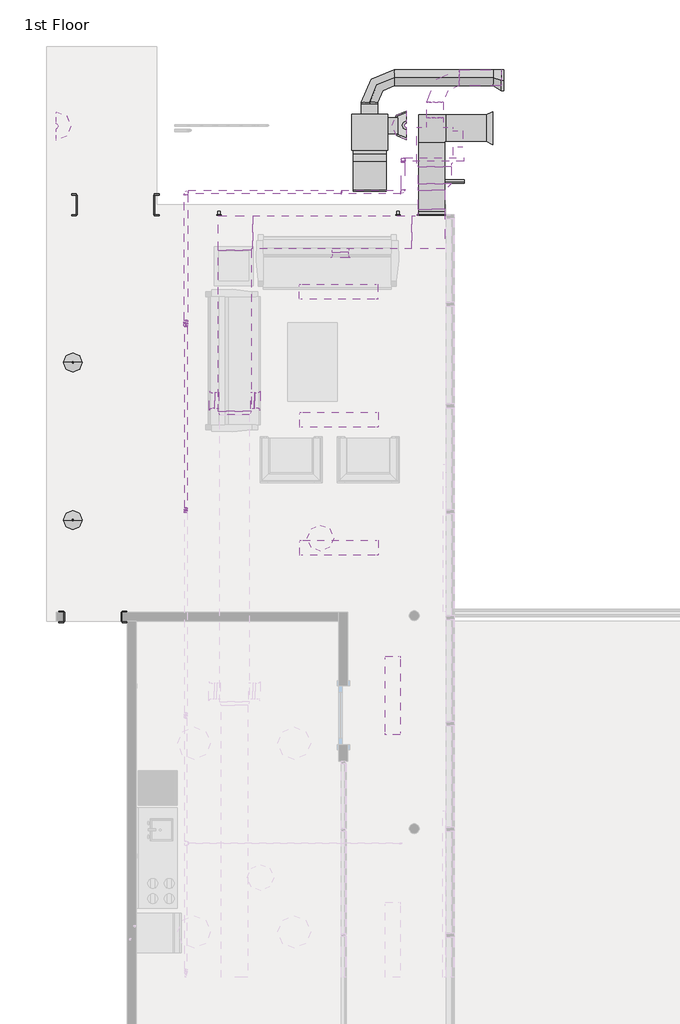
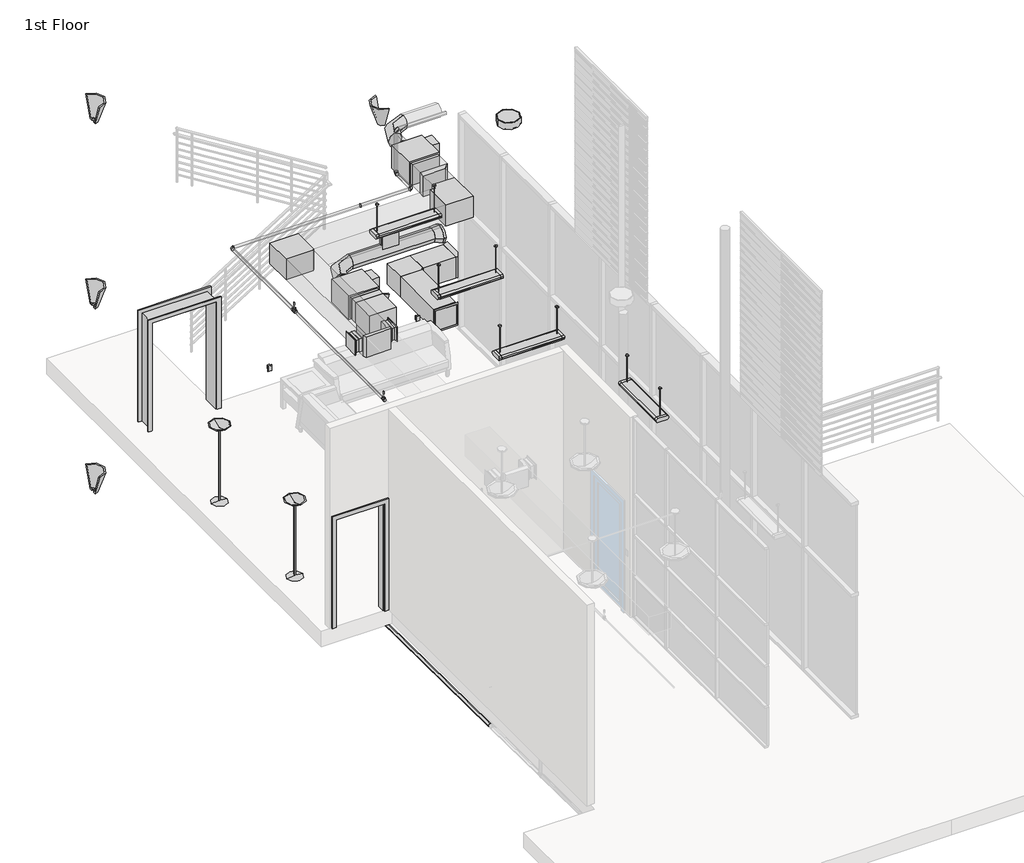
# One storey, part 4 of 4: 15 duct segments, 14 duct fittings, 13 light fixtures, 13 pipe segments, 12 pipe fittings, 8 proxies, 4 air terminals, 2 fire suppression terminals.
"""IFC4 building model written with IfcOpenShell, lengths in millimetres."""

from ifc_helpers import new_model, si_unit, point, frame, frame_2d, origin, place, context, project, spatial, polyline, circle_curve, trimmed, segment, composite_curve, outline, extrude, transform, mapped, element, save
from components import air_terminal_37217d21, air_terminal_0139ce82, air_terminal_831a3b9e, proxy_e62dbe84, proxy_20ebd3de, pipe_dcw_origin_standard_a8ebccfd, receptacle_gfci_367a9a66, shut_off_vav_10_inch_df6e8142, rectangular_duct_mitered_elbow_standard_69e3689b, rectangular_duct_mitered_elbow_standard_b095041a, rectangular_duct_mitered_elbow_standard_baa8b5a4, rectangular_duct_mitered_transition_elbow_standard_b977c078, rectangular_duct_takeoff_sidewall_standard_8ecd27dc, rectangular_duct_takeoff_sidewall_standard_de4d9739, rectangular_duct_transition_standard_9aa5c4ff, rectangular_duct_transition_standard_94b557fa, rectangular_duct_transition_standard_95a42e19, round_duct_elbow_1_5_d_a606aaa3, round_duct_takeoff_beveled_standard_77c3d9e6, fire_suppression_terminal_f250fbbb, light_fixture_120v_8a54b260, light_fixture_b06bbfae, sconce_light_flat_round_100w_120v_d640190c, sconce_light_uplight_100w_120v_70b3641e, pipe_elbow_standard_46078d03, pipe_elbow_standard_764eecca, pipe_pvc_bend_standard_92995d58, pipe_pvc_bend_standard_b8b756f3, pipe_tee_standard_7127fd44, pipe_tee_standard_36278b8a, pipe_transition_eccentric_standard_8ef0957a, pipe_transition_eccentric_standard_4aeee749, pipe_transition_eccentric_standard_3b8d3413

model = new_model("IFC4")

# Units and contexts
model_context = context("Model", 3, world=origin())
ifc_project = project(units=[si_unit("LENGTHUNIT", "METRE", prefix="MILLI")], contexts=[model_context])

# Site, building, storey
site = spatial("IfcSite", under=ifc_project)
building = spatial("IfcBuilding", under=site)
storey = spatial("IfcBuildingStorey", under=building, Name="1st Floor", Elevation=3657.6)

# Air terminals
placement = place(None, origin())
air_terminal_shape = air_terminal_37217d21(model_context)
element("IfcAirTerminal", 1, ObjectType="Sidewall Diffuser : 10\" x 10\"", at=placement, inside=storey, context=model_context, shape_type="MappedRepresentation", body=[
    mapped(air_terminal_shape, transform((-1319.3689178, 6274.7147242, 6400.8), x_axis=(0.0, 1.0, 0.0), y_axis=(-1.0, 0.0, 0.0), z_axis=(0.0, 0.0, 1.0))),
])
element("IfcAirTerminal", 2, ObjectType="Sidewall Diffuser : 10\" x 10\"", at=placement, inside=storey, context=model_context, shape_type="MappedRepresentation", body=[
    mapped(air_terminal_shape, transform((-72.8439612, 8492.3720024, 6400.8), x_axis=(1.0, 0.0, 0.0), y_axis=(0.0, 1.0, 0.0), z_axis=(0.0, 0.0, 1.0))),
])
air_terminal_2_shape = air_terminal_0139ce82(model_context)
element("IfcAirTerminal", 3, ObjectType="Sidewall Diffuser : 10\" x 10\"", at=placement, inside=storey, context=model_context, shape_type="MappedRepresentation", body=[
    mapped(air_terminal_2_shape, transform((-2096.206386, 6274.7147242, 6400.8), x_axis=(0.0, 1.0, 0.0), y_axis=(-1.0, 0.0, 0.0), z_axis=(0.0, 0.0, 1.0))),
])
air_terminal_3_shape = air_terminal_831a3b9e(model_context)
element("IfcAirTerminal", 4, ObjectType="Square Return Grille - Hosted : 16\" x 16\"", at=placement, inside=storey, context=model_context, shape_type="MappedRepresentation", body=[
    mapped(air_terminal_3_shape, transform((466.8608245, 9152.359643, 4143.375), x_axis=(1.0, 0.0, 0.0), y_axis=(0.0, 0.0, 1.0), z_axis=(0.0, -1.0, 0.0))),
])

# Proxies
proxy_shape = proxy_e62dbe84(model_context)
element("IfcBuildingElementProxy", 5, Name="Opening-Cased : 36\" x 84\"", ObjectType="Opening-Cased : 36\" x 84\"", at=placement, inside=storey, context=model_context, shape_type="MappedRepresentation", body=[
    mapped(proxy_shape, transform((-3910.0826179, 2930.2310017, 3657.6), x_axis=(-1.0, 0.0, 0.0), y_axis=(0.0, -1.0, 0.0), z_axis=(0.0, 0.0, 1.0))),
])
proxy_2_shape = proxy_20ebd3de(model_context)
element("IfcBuildingElementProxy", 6, Name="Opening-Cased : 48\" x 84\"", ObjectType="Opening-Cased : 48\" x 84\"", at=placement, inside=storey, context=model_context, shape_type="MappedRepresentation", body=[
    mapped(proxy_2_shape, transform((-3544.4553045, 9304.759643, 3657.6), x_axis=(1.0, 0.0, 0.0), y_axis=(0.0, 1.0, 0.0), z_axis=(0.0, 0.0, 1.0))),
])
pipe_dcw_origin_standard_shape = pipe_dcw_origin_standard_a8ebccfd(model_context)
element("IfcBuildingElementProxy", 7, Name="Pipe Wet Origin : Standard", ObjectType="Pipe Wet Origin : Standard", at=placement, inside=storey, context=model_context, shape_type="MappedRepresentation", body=[
    mapped(pipe_dcw_origin_standard_shape, transform((-55.0163362, 9501.609643, 6451.6), x_axis=(1.0, 0.0, 0.0), y_axis=(0.0, 1.0, 0.0), z_axis=(0.0, 0.0, 1.0))),
])
receptacle_gfci_shape = receptacle_gfci_367a9a66(model_context)
element("IfcBuildingElementProxy", 8, Name="Receptacle : Standard", ObjectType="Receptacle : Standard", at=placement, inside=storey, context=model_context, shape_type="MappedRepresentation", body=[
    mapped(receptacle_gfci_shape, transform((816.1560388, 9152.359643, 4114.8), x_axis=(1.0, 0.0, 0.0), y_axis=(0.0, 0.0, 1.0), z_axis=(0.0, -1.0, 0.0))),
])
element("IfcBuildingElementProxy", 9, Name="Receptacle : Standard", ObjectType="Receptacle : Standard", at=placement, inside=storey, context=model_context, shape_type="MappedRepresentation", body=[
    mapped(receptacle_gfci_shape, transform((-1952.4439612, 9152.359643, 4114.8), x_axis=(1.0, 0.0, 0.0), y_axis=(0.0, 0.0, 1.0), z_axis=(0.0, -1.0, 0.0))),
])
element("IfcBuildingElementProxy", 10, Name="Receptacle : Standard", ObjectType="Receptacle : Standard", at=placement, inside=storey, context=model_context, shape_type="MappedRepresentation", body=[
    mapped(receptacle_gfci_shape, transform((-634.7604947, 3000.0810017, 4114.8), x_axis=(-1.0, 0.0, 0.0), y_axis=(0.0, 0.0, 1.0), z_axis=(0.0, 1.0, 0.0))),
])
shut_off_vav_10_inch_shape = shut_off_vav_10_inch_df6e8142(model_context)
element("IfcBuildingElementProxy", 11, Name="Shut off VAV : 10 Inch", ObjectType="Shut off VAV : 10 Inch", at=placement, inside=storey, context=model_context, shape_type="MappedRepresentation", body=[
    mapped(shut_off_vav_10_inch_shape, transform((381.361104, 10428.729515, 3980.3585938), x_axis=(1.0, 0.0, 0.0), y_axis=(0.0, 1.0, 0.0), z_axis=(0.0, 0.0, 1.0))),
])
element("IfcBuildingElementProxy", 12, Name="Shut off VAV : 10 Inch", ObjectType="Shut off VAV : 10 Inch", at=placement, inside=storey, context=model_context, shape_type="MappedRepresentation", body=[
    mapped(shut_off_vav_10_inch_shape, transform((1389.9216162, 10225.529515, 6400.8), x_axis=(1.0, 0.0, 0.0), y_axis=(0.0, 1.0, 0.0), z_axis=(0.0, 0.0, 1.0))),
])

# Duct fittings
rectangular_duct_mitered_elbow_standard_shape = rectangular_duct_mitered_elbow_standard_69e3689b(model_context)
element("IfcDuctFitting", 13, ObjectType="Rectangular Duct Mitered Elbow : Standard", at=placement, inside=storey, context=model_context, shape_type="MappedRepresentation", body=[
    mapped(rectangular_duct_mitered_elbow_standard_shape, transform((-1708.8783838, 8879.9487868, 6400.8), x_axis=(-1.0, 0.0, 0.0), y_axis=(0.0, -1.0, 0.0), z_axis=(0.0, 0.0, 1.0))),
])
rectangular_duct_mitered_elbow_standard_2_shape = rectangular_duct_mitered_elbow_standard_b095041a(model_context)
element("IfcDuctFitting", 14, ObjectType="Rectangular Duct Mitered Elbow : Standard", at=placement, inside=storey, context=model_context, shape_type="MappedRepresentation", body=[
    mapped(rectangular_duct_mitered_elbow_standard_2_shape, transform((1339.9858245, 10493.7050553, 3962.4), x_axis=(-1.0, 0.0, 0.0), y_axis=(0.0, -1.0, 0.0), z_axis=(0.0, 0.0, 1.0))),
])
rectangular_duct_mitered_elbow_standard_3_shape = rectangular_duct_mitered_elbow_standard_baa8b5a4(model_context)
element("IfcDuctFitting", 15, ObjectType="Rectangular Duct Mitered Elbow : Standard", at=placement, inside=storey, context=model_context, shape_type="MappedRepresentation", body=[
    mapped(rectangular_duct_mitered_elbow_standard_3_shape, transform((381.361104, 9742.929515, 2743.2), x_axis=(0.0, 0.0, -1.0), y_axis=(0.0, -1.0, 0.0), z_axis=(-1.0, 0.0, 0.0))),
])
element("IfcDuctFitting", 16, ObjectType="Rectangular Duct Mitered Elbow : Standard", at=placement, inside=storey, context=model_context, shape_type="MappedRepresentation", body=[
    mapped(rectangular_duct_mitered_elbow_standard_3_shape, transform((381.361104, 9742.929515, 3980.3585937), x_axis=(0.0, 0.0, 1.0), y_axis=(0.0, 1.0, 0.0), z_axis=(-1.0, 0.0, 0.0))),
])
rectangular_duct_mitered_transition_elbow_standard_shape = rectangular_duct_mitered_transition_elbow_standard_b977c078(model_context)
element("IfcDuctFitting", 17, ObjectType="Rectangular Duct Mitered Transition Elbow : Standard", at=placement, inside=storey, context=model_context, shape_type="MappedRepresentation", body=[
    mapped(rectangular_duct_mitered_transition_elbow_standard_shape, transform((1339.1216162, 8879.9487868, 6400.8), x_axis=(1.0, 0.0, 0.0), y_axis=(0.0, 1.0, 0.0), z_axis=(0.0, 0.0, 1.0))),
])
rectangular_duct_takeoff_sidewall_standard_shape = rectangular_duct_takeoff_sidewall_standard_8ecd27dc(model_context)
element("IfcDuctFitting", 18, ObjectType="Rectangular Duct Takeoff - Sidewall : Standard", at=placement, inside=storey, context=model_context, shape_type="MappedRepresentation", body=[
    mapped(rectangular_duct_takeoff_sidewall_standard_shape, transform((-1454.8783838, 6274.7147242, 6400.8), x_axis=(1.0, 0.0, 0.0), y_axis=(0.0, -1.0, 0.0), z_axis=(0.0, 0.0, -1.0))),
])
element("IfcDuctFitting", 19, ObjectType="Rectangular Duct Takeoff - Sidewall : Standard", at=placement, inside=storey, context=model_context, shape_type="MappedRepresentation", body=[
    mapped(rectangular_duct_takeoff_sidewall_standard_shape, transform((-72.8439612, 8625.9487868, 6400.8), x_axis=(0.0, -1.0, 0.0), y_axis=(-1.0, 0.0, 0.0), z_axis=(0.0, 0.0, -1.0))),
])
rectangular_duct_takeoff_sidewall_standard_2_shape = rectangular_duct_takeoff_sidewall_standard_de4d9739(model_context)
element("IfcDuctFitting", 20, ObjectType="Rectangular Duct Takeoff - Sidewall : Standard", at=placement, inside=storey, context=model_context, shape_type="MappedRepresentation", body=[
    mapped(rectangular_duct_takeoff_sidewall_standard_2_shape, transform((-1962.8783838, 6274.7147242, 6400.8), x_axis=(-1.0, 0.0, 0.0), y_axis=(0.0, 1.0, 0.0), z_axis=(0.0, 0.0, -1.0))),
])
rectangular_duct_transition_standard_shape = rectangular_duct_transition_standard_9aa5c4ff(model_context)
element("IfcDuctFitting", 21, ObjectType="Rectangular Duct Transition : Standard", at=placement, inside=storey, context=model_context, shape_type="MappedRepresentation", body=[
    mapped(rectangular_duct_transition_standard_shape, transform((2286.1810388, 10493.7050553, 3962.4), x_axis=(-1.0, 0.0, 0.0), y_axis=(0.0, 0.0, 1.0), z_axis=(0.0, 1.0, 0.0))),
])
rectangular_duct_transition_standard_2_shape = rectangular_duct_transition_standard_94b557fa(model_context)
element("IfcDuctFitting", 22, ObjectType="Rectangular Duct Transition : Standard", at=placement, inside=storey, context=model_context, shape_type="MappedRepresentation", body=[
    mapped(rectangular_duct_transition_standard_2_shape, transform((-1708.8783838, 6108.1737868, 6400.8), x_axis=(0.0, -1.0, 0.0), y_axis=(1.0, 0.0, 0.0), z_axis=(0.0, 0.0, 1.0))),
])
rectangular_duct_transition_standard_3_shape = rectangular_duct_transition_standard_95a42e19(model_context)
element("IfcDuctFitting", 23, ObjectType="Rectangular Duct Transition : Standard", at=placement, inside=storey, context=model_context, shape_type="MappedRepresentation", body=[
    mapped(rectangular_duct_transition_standard_3_shape, transform((1339.1216162, 9527.6487868, 6400.8), x_axis=(0.0, 1.0, 0.0), y_axis=(1.0, 0.0, 0.0), z_axis=(0.0, 0.0, -1.0))),
])
round_duct_elbow_1_5_d_shape = round_duct_elbow_1_5_d_a606aaa3(model_context)
element("IfcDuctFitting", 24, ObjectType="Round Duct Elbow : 1.5 D", at=placement, inside=storey, context=model_context, shape_type="MappedRepresentation", body=[
    mapped(round_duct_elbow_1_5_d_shape, transform((381.361104, 11273.1537863, 3980.3585938), x_axis=(0.0, 1.0, 0.0), y_axis=(1.0, 0.0, 0.0), z_axis=(0.0, 0.0, -1.0))),
])
element("IfcDuctFitting", 25, ObjectType="Round Duct Elbow : 1.5 D", at=placement, inside=storey, context=model_context, shape_type="MappedRepresentation", body=[
    mapped(round_duct_elbow_1_5_d_shape, transform((1389.9216162, 11273.1537863, 6400.8), x_axis=(-1.0, 0.0, 0.0), y_axis=(0.0, -1.0, 0.0), z_axis=(0.0, 0.0, 1.0))),
])
round_duct_takeoff_beveled_standard_shape = round_duct_takeoff_beveled_standard_77c3d9e6(model_context)
element("IfcDuctFitting", 26, ObjectType="Round Duct Takeoff Beveled : Standard", at=placement, inside=storey, context=model_context, shape_type="MappedRepresentation", body=[
    mapped(round_duct_takeoff_beveled_standard_shape, transform((2419.7183521, 11273.1537863, 3980.3585938), x_axis=(-1.0, 0.0, 0.0), y_axis=(0.0, 1.0, 0.0), z_axis=(0.0, 0.0, -1.0))),
])

# Duct segments
element("IfcDuctSegment", 27, ObjectType="Mitered Elbows / Taps", at=placement, inside=storey, context=model_context, shape_type="SweptSolid", body=[
    extrude(outline(polyline([(1542.3216162, 9235.5487868), (1135.9216162, 9235.5487868), (1135.9216162, 9527.6487868), (1542.3216162, 9527.6487868), (1542.3216162, 9235.5487868)])), frame((0.0, 0.0, 6197.6), z_axis=(0.0, 0.0, 1.0), x_axis=(1.0, 0.0, 0.0)), (0.0, 0.0, 1.0), 406.4),
])
element("IfcDuctSegment", 28, ObjectType="Mitered Elbows / Taps", at=placement, inside=storey, context=model_context, shape_type="SweptSolid", body=[
    extrude(outline(polyline([(1034.3216162, 9133.9487868), (1034.3216162, 8625.9487868), (-1429.4783838, 8625.9487868), (-1429.4783838, 9133.9487868), (1034.3216162, 9133.9487868)])), frame((0.0, 0.0, 6197.6), z_axis=(0.0, 0.0, 1.0), x_axis=(1.0, 0.0, 0.0)), (0.0, 0.0, 1.0), 406.4),
])
element("IfcDuctSegment", 29, ObjectType="Mitered Elbows / Taps", at=placement, inside=storey, context=model_context, shape_type="SweptSolid", body=[
    extrude(outline(polyline([(-1962.8783838, 8600.5487868), (-1454.8783838, 8600.5487868), (-1454.8783838, 6108.1737868), (-1962.8783838, 6108.1737868), (-1962.8783838, 8600.5487868)])), frame((0.0, 0.0, 6197.6), z_axis=(0.0, 0.0, 1.0), x_axis=(1.0, 0.0, 0.0)), (0.0, 0.0, 1.0), 406.4),
])
element("IfcDuctSegment", 30, ObjectType="Mitered Elbows / Taps", at=placement, inside=storey, context=model_context, shape_type="SweptSolid", body=[
    extrude(outline(polyline([(127.361104, 10098.529515), (635.361104, 10098.529515), (635.361104, 9971.529515), (127.361104, 9971.529515), (127.361104, 10098.529515)])), frame((0.0, 0.0, 3777.1585937), z_axis=(0.0, 0.0, 1.0), x_axis=(1.0, 0.0, 0.0)), (0.0, 0.0, 1.0), 406.4),
])
element("IfcDuctSegment", 31, ObjectType="Mitered Elbows / Taps", at=placement, inside=storey, context=model_context, shape_type="SweptSolid", body=[
    extrude(outline(polyline([(1643.9216162, 9629.2487868), (1135.9216162, 9629.2487868), (1135.9216162, 9895.329515), (1643.9216162, 9895.329515), (1643.9216162, 9629.2487868)])), frame((0.0, 0.0, 6197.6), z_axis=(0.0, 0.0, 1.0), x_axis=(1.0, 0.0, 0.0)), (0.0, 0.0, 1.0), 406.4),
])
element("IfcDuctSegment", 32, ObjectType="Mitered Elbows / Taps Sidewall", at=placement, inside=storey, context=model_context, shape_type="SweptSolid", body=[
    extrude(outline(polyline([(-2013.6783838, 6401.7147242), (-2013.6783838, 6147.7147242), (-2020.006386, 6147.7147242), (-2020.006386, 6401.7147242), (-2013.6783838, 6401.7147242)])), frame((0.0, 0.0, 6273.8), z_axis=(0.0, 0.0, 1.0), x_axis=(1.0, 0.0, 0.0)), (0.0, 0.0, 1.0), 254.0),
])
element("IfcDuctSegment", 33, ObjectType="Mitered Elbows / Taps Sidewall", at=placement, inside=storey, context=model_context, shape_type="SweptSolid", body=[
    extrude(outline(polyline([(-1404.0783838, 6147.7147242), (-1404.0783838, 6401.7147242), (-1395.5689178, 6401.7147242), (-1395.5689178, 6147.7147242), (-1404.0783838, 6147.7147242)])), frame((0.0, 0.0, 6273.8), z_axis=(0.0, 0.0, 1.0), x_axis=(1.0, 0.0, 0.0)), (0.0, 0.0, 1.0), 254.0),
])
element("IfcDuctSegment", 34, ObjectType="Mitered Elbows / Taps Sidewall", at=placement, inside=storey, context=model_context, shape_type="SweptSolid", body=[
    extrude(outline(polyline([(-199.8439612, 8575.1487868), (54.1560388, 8575.1487868), (54.1560388, 8568.5720024), (-199.8439612, 8568.5720024), (-199.8439612, 8575.1487868)])), frame((0.0, 0.0, 6273.8), z_axis=(0.0, 0.0, 1.0), x_axis=(1.0, 0.0, 0.0)), (0.0, 0.0, 1.0), 254.0),
])
element("IfcDuctSegment", 35, ObjectType="Mitered Elbows / Taps Sidewall", at=placement, inside=storey, context=model_context, shape_type="SweptSolid", body=[
    extrude(outline(polyline([(635.361104, 9539.729515), (127.361104, 9539.729515), (127.361104, 9946.129515), (635.361104, 9946.129515), (635.361104, 9539.729515)])), frame((0.0, 0.0, 2971.8), z_axis=(0.0, 0.0, 1.0), x_axis=(1.0, 0.0, 0.0)), (0.0, 0.0, 1.0), 779.9585937),
])
element("IfcDuctSegment", 36, ObjectType="Mitered Elbows / Tees", at=placement, inside=storey, context=model_context, shape_type="SweptSolid", body=[
    extrude(outline(polyline([(1543.1858245, 9196.809643), (1136.7858245, 9196.809643), (1136.7858245, 10265.1050553), (1543.1858245, 10265.1050553), (1543.1858245, 9196.809643)])), frame((0.0, 0.0, 3759.2), z_axis=(0.0, 0.0, 1.0), x_axis=(1.0, 0.0, 0.0)), (0.0, 0.0, 1.0), 406.4),
])
element("IfcDuctSegment", 37, ObjectType="Mitered Elbows / Tees", at=placement, inside=storey, context=model_context, shape_type="SweptSolid", body=[
    extrude(outline(polyline([(2184.5810388, 10696.9050553), (2184.5810388, 10290.5050553), (1568.5858245, 10290.5050553), (1568.5858245, 10696.9050553), (2184.5810388, 10696.9050553)])), frame((0.0, 0.0, 3759.2), z_axis=(0.0, 0.0, 1.0), x_axis=(1.0, 0.0, 0.0)), (0.0, 0.0, 1.0), 406.4),
])
element("IfcDuctSegment", 38, ObjectType="Taps", at=placement, inside=storey, context=model_context, shape_type="SweptSolid", body=[
    extrude(outline(composite_curve([segment(trimmed(circle_curve(frame_2d((3980.3585937, 381.361104)), 127.0), [point((3980.3585937, 508.361104))], [point((4107.3585937, 381.361104))], False, "CARTESIAN"), True, "CONTINUOUS"), segment(trimmed(circle_curve(frame_2d((3980.3585937, 381.361104)), 127.0), [point((4107.3585937, 381.361104))], [point((3980.3585938, 254.361104))], False, "CARTESIAN"), True, "CONTINUOUS"), segment(trimmed(circle_curve(frame_2d((3980.3585937, 381.361104)), 127.0), [point((3980.3585938, 254.361104))], [point((3853.3585938, 381.361104))], False, "CARTESIAN"), True, "CONTINUOUS"), segment(trimmed(circle_curve(frame_2d((3980.3585937, 381.361104)), 127.0), [point((3853.3585938, 381.361104))], [point((3980.3585937, 508.361104))], False, "CARTESIAN"), True, "CONTINUOUS")], self_intersect=False)), frame((0.0, 10860.529515, 0.0), z_axis=(0.0, 1.0, 0.0), x_axis=(0.0, 0.0, 1.0)), (0.0, 0.0, 1.0), 31.6242713),
])
element("IfcDuctSegment", 39, ObjectType="Taps", at=placement, inside=storey, context=model_context, shape_type="SweptSolid", body=[
    extrude(outline(composite_curve([segment(trimmed(circle_curve(frame_2d((11273.1537863, 3980.3585938)), 127.0), [point((11146.1537863, 3980.3585938))], [point((11273.1537863, 4107.3585938))], False, "CARTESIAN"), True, "CONTINUOUS"), segment(trimmed(circle_curve(frame_2d((11273.1537863, 3980.3585938)), 127.0), [point((11273.1537863, 4107.3585938))], [point((11400.1537863, 3980.3585938))], False, "CARTESIAN"), True, "CONTINUOUS"), segment(trimmed(circle_curve(frame_2d((11273.1537863, 3980.3585938)), 127.0), [point((11400.1537863, 3980.3585938))], [point((11273.1537863, 3853.3585938))], False, "CARTESIAN"), True, "CONTINUOUS"), segment(trimmed(circle_curve(frame_2d((11273.1537863, 3980.3585938)), 127.0), [point((11273.1537863, 3853.3585938))], [point((11146.1537863, 3980.3585938))], False, "CARTESIAN"), True, "CONTINUOUS")], self_intersect=False)), frame((762.361104, 0.0, 0.0), z_axis=(1.0, 0.0, 0.0), x_axis=(0.0, 1.0, 0.0)), (0.0, 0.0, 1.0), 1530.3572482),
])
element("IfcDuctSegment", 40, ObjectType="Taps", at=placement, inside=storey, context=model_context, shape_type="SweptSolid", body=[
    extrude(outline(composite_curve([segment(trimmed(circle_curve(frame_2d((6400.8, 1389.9216162)), 127.0), [point((6400.8, 1516.9216162))], [point((6527.8, 1389.9216162))], False, "CARTESIAN"), True, "CONTINUOUS"), segment(trimmed(circle_curve(frame_2d((6400.8, 1389.9216162)), 127.0), [point((6527.8, 1389.9216162))], [point((6400.8, 1262.9216162))], False, "CARTESIAN"), True, "CONTINUOUS"), segment(trimmed(circle_curve(frame_2d((6400.8, 1389.9216162)), 127.0), [point((6400.8, 1262.9216162))], [point((6273.8, 1389.9216162))], False, "CARTESIAN"), True, "CONTINUOUS"), segment(trimmed(circle_curve(frame_2d((6400.8, 1389.9216162)), 127.0), [point((6273.8, 1389.9216162))], [point((6400.8, 1516.9216162))], False, "CARTESIAN"), True, "CONTINUOUS")], self_intersect=False)), frame((0.0, 10657.329515, 0.0), z_axis=(0.0, 1.0, 0.0), x_axis=(0.0, 0.0, 1.0)), (0.0, 0.0, 1.0), 234.8242713),
])
element("IfcDuctSegment", 41, ObjectType="Tees", at=placement, inside=storey, context=model_context, shape_type="SweptSolid", body=[
    extrude(outline(composite_curve([segment(trimmed(circle_curve(frame_2d((11273.1537863, 6400.8)), 127.0), [point((11273.1537863, 6273.8))], [point((11146.1537863, 6400.8))], False, "CARTESIAN"), True, "CONTINUOUS"), segment(trimmed(circle_curve(frame_2d((11273.1537863, 6400.8)), 127.0), [point((11146.1537863, 6400.8))], [point((11273.1537863, 6527.8))], False, "CARTESIAN"), True, "CONTINUOUS"), segment(trimmed(circle_curve(frame_2d((11273.1537863, 6400.8)), 127.0), [point((11273.1537863, 6527.8))], [point((11400.1537863, 6400.8))], False, "CARTESIAN"), True, "CONTINUOUS"), segment(trimmed(circle_curve(frame_2d((11273.1537863, 6400.8)), 127.0), [point((11400.1537863, 6400.8))], [point((11273.1537863, 6273.8))], False, "CARTESIAN"), True, "CONTINUOUS")], self_intersect=False)), frame((1770.9216162, 0.0, 0.0), z_axis=(1.0, 0.0, 0.0), x_axis=(0.0, 1.0, 0.0)), (0.0, 0.0, 1.0), 648.7967359),
])

# Fire suppression terminals
fire_suppression_terminal_shape = fire_suppression_terminal_f250fbbb(model_context)
element("IfcFireSuppressionTerminal", 42, ObjectType="Sprinkler - Upright : 1/2\" Upright", at=placement, inside=storey, context=model_context, shape_type="MappedRepresentation", body=[
    mapped(fire_suppression_terminal_shape, transform((-2463.5604947, 7475.959643, 6553.2), x_axis=(1.0, 0.0, 0.0), y_axis=(0.0, 1.0, 0.0), z_axis=(0.0, 0.0, 1.0))),
])
element("IfcFireSuppressionTerminal", 43, ObjectType="Sprinkler - Upright : 1/2\" Upright", at=placement, inside=storey, context=model_context, shape_type="MappedRepresentation", body=[
    mapped(fire_suppression_terminal_shape, transform((-2463.5604947, 4580.359643, 6553.2), x_axis=(1.0, 0.0, 0.0), y_axis=(0.0, 1.0, 0.0), z_axis=(0.0, 0.0, 1.0))),
])

# Light fixtures
light_fixture_120v_shape = light_fixture_120v_8a54b260(model_context)
element("IfcLightFixture", 44, ObjectType="Floor Lamp - Torchiere : 120V", at=placement, inside=storey, context=model_context, shape_type="MappedRepresentation", body=[
    mapped(light_fixture_120v_shape, transform((-4213.0439612, 4427.959643, 3657.6), x_axis=(1.0, 0.0, 0.0), y_axis=(0.0, 1.0, 0.0), z_axis=(0.0, 0.0, 1.0))),
])
element("IfcLightFixture", 45, ObjectType="Floor Lamp - Torchiere : 120V", at=placement, inside=storey, context=model_context, shape_type="MappedRepresentation", body=[
    mapped(light_fixture_120v_shape, transform((-4213.0439612, 6866.359643, 3657.6), x_axis=(1.0, 0.0, 0.0), y_axis=(0.0, 1.0, 0.0), z_axis=(0.0, 0.0, 1.0))),
])
light_fixture_shape = light_fixture_b06bbfae(model_context)
element("IfcLightFixture", 46, ObjectType="Pendant Light - Linear - 2 Lamp : 48\" - 120V", at=placement, inside=storey, context=model_context, shape_type="MappedRepresentation", body=[
    mapped(light_fixture_shape, transform((-101.3604947, 7959.4310017, 7620.0), x_axis=(1.0, 0.0, 0.0), y_axis=(0.0, -1.0, 0.0), z_axis=(0.0, 0.0, -1.0))),
])
element("IfcLightFixture", 47, ObjectType="Pendant Light - Linear - 2 Lamp : 48\" - 120V", at=placement, inside=storey, context=model_context, shape_type="MappedRepresentation", body=[
    mapped(light_fixture_shape, transform((-95.0104947, 5978.2310017, 7620.0), x_axis=(1.0, 0.0, 0.0), y_axis=(0.0, -1.0, 0.0), z_axis=(0.0, 0.0, -1.0))),
])
element("IfcLightFixture", 48, ObjectType="Pendant Light - Linear - 2 Lamp : 48\" - 120V", at=placement, inside=storey, context=model_context, shape_type="MappedRepresentation", body=[
    mapped(light_fixture_shape, transform((-95.0104947, 3997.0310017, 7620.0), x_axis=(1.0, 0.0, 0.0), y_axis=(0.0, -1.0, 0.0), z_axis=(0.0, 0.0, -1.0))),
])
element("IfcLightFixture", 49, ObjectType="Pendant Light - Linear - 2 Lamp : 48\" - 120V", at=placement, inside=storey, context=model_context, shape_type="MappedRepresentation", body=[
    mapped(light_fixture_shape, transform((736.8395053, 1711.0310017, 7620.0), x_axis=(0.0, -1.0, 0.0), y_axis=(-1.0, 0.0, 0.0), z_axis=(0.0, 0.0, -1.0))),
])
sconce_light_flat_round_100w_120v_shape = sconce_light_flat_round_100w_120v_d640190c(model_context)
element("IfcLightFixture", 50, ObjectType="Sconce Light - Flat Round : 60W - 120V", at=placement, inside=storey, context=model_context, shape_type="MappedRepresentation", body=[
    mapped(sconce_light_flat_round_100w_120v_shape, transform((-380.7604947, 4145.9174546, 11582.4), x_axis=(-1.0, 0.0, 0.0), y_axis=(0.0, 1.0, 0.0), z_axis=(0.0, 0.0, -1.0))),
])
sconce_light_uplight_100w_120v_shape = sconce_light_uplight_100w_120v_70b3641e(model_context)
element("IfcLightFixture", 51, ObjectType="Sconce Light - Uplight : 100W - 120V", at=placement, inside=storey, context=model_context, shape_type="MappedRepresentation", body=[
    mapped(sconce_light_uplight_100w_120v_shape, transform((-4467.0439612, 10523.959643, 5588.0), x_axis=(0.0, 1.0, 0.0), y_axis=(0.0, 0.0, 1.0), z_axis=(1.0, 0.0, 0.0))),
])
element("IfcLightFixture", 52, ObjectType="Sconce Light - Uplight : 100W - 120V", at=placement, inside=storey, context=model_context, shape_type="MappedRepresentation", body=[
    mapped(sconce_light_uplight_100w_120v_shape, transform((949.5060388, 10536.659643, 7315.2), x_axis=(0.0, -1.0, 0.0), y_axis=(0.0, 0.0, 1.0), z_axis=(-1.0, 0.0, 0.0))),
])
element("IfcLightFixture", 53, ObjectType="Sconce Light - Uplight : 100W - 120V", at=placement, inside=storey, context=model_context, shape_type="MappedRepresentation", body=[
    mapped(sconce_light_uplight_100w_120v_shape, transform((-4467.0439612, 10523.959643, 1930.4), x_axis=(0.0, 1.0, 0.0), y_axis=(0.0, 0.0, 1.0), z_axis=(1.0, 0.0, 0.0))),
])
element("IfcLightFixture", 54, ObjectType="Sconce Light - Uplight : 100W - 120V", at=placement, inside=storey, context=model_context, shape_type="MappedRepresentation", body=[
    mapped(sconce_light_uplight_100w_120v_shape, transform((-4467.0439612, 10523.959643, 9245.6), x_axis=(0.0, 1.0, 0.0), y_axis=(0.0, 0.0, 1.0), z_axis=(1.0, 0.0, 0.0))),
])
element("IfcLightFixture", 55, ObjectType="Sconce Light - Uplight : 100W - 120V", at=placement, inside=storey, context=model_context, shape_type="MappedRepresentation", body=[
    mapped(sconce_light_uplight_100w_120v_shape, transform((949.5060388, 10536.659643, 3657.6), x_axis=(0.0, -1.0, 0.0), y_axis=(0.0, 0.0, 1.0), z_axis=(-1.0, 0.0, 0.0))),
])
element("IfcLightFixture", 56, ObjectType="Sconce Light - Uplight : 100W - 120V", at=placement, inside=storey, context=model_context, shape_type="MappedRepresentation", body=[
    mapped(sconce_light_uplight_100w_120v_shape, transform((949.5060388, 10536.659643, 0.0), x_axis=(0.0, -1.0, 0.0), y_axis=(0.0, 0.0, 1.0), z_axis=(-1.0, 0.0, 0.0))),
])

# Pipe fittings
pipe_elbow_standard_shape = pipe_elbow_standard_46078d03(model_context)
element("IfcPipeFitting", 57, ObjectType="Pipe Elbow : Standard", at=placement, inside=storey, context=model_context, shape_type="MappedRepresentation", body=[
    mapped(pipe_elbow_standard_shape, transform((1400.3578692, 9666.2337041, 3107.742907), x_axis=(0.0, 0.9999344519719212, -0.011449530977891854), y_axis=(0.9999457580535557, -0.00011925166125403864, -0.010414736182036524), z_axis=(-0.010415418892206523, -0.011448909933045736, -0.9998802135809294))),
])
pipe_elbow_standard_2_shape = pipe_elbow_standard_764eecca(model_context)
element("IfcPipeFitting", 58, ObjectType="Pipe Elbow1 : Standard 2", at=placement, inside=storey, context=model_context, shape_type="MappedRepresentation", body=[
    mapped(pipe_elbow_standard_2_shape, transform((-2463.5604947, 9501.609643, 6451.6), x_axis=(0.0, 1.0, 0.0), y_axis=(1.0, 0.0, 0.0), z_axis=(0.0, 0.0, -1.0))),
])
element("IfcPipeFitting", 59, ObjectType="Pipe Elbow1 : Standard 2", at=placement, inside=storey, context=model_context, shape_type="MappedRepresentation", body=[
    mapped(pipe_elbow_standard_2_shape, transform((898.7536638, 10004.7891583, 7315.2), x_axis=(0.0, 0.0, 1.0), y_axis=(1.0, 0.0, 0.0), z_axis=(0.0, 1.0, 0.0))),
])
element("IfcPipeFitting", 60, ObjectType="Pipe Elbow1 : Standard 2", at=placement, inside=storey, context=model_context, shape_type="MappedRepresentation", body=[
    mapped(pipe_elbow_standard_2_shape, transform((898.7536638, 9501.609643, 6451.6), x_axis=(1.0, 0.0, 0.0), y_axis=(0.0, 1.0, 0.0), z_axis=(0.0, 0.0, 1.0))),
])
element("IfcPipeFitting", 61, ObjectType="Pipe Elbow1 : Standard 2", at=placement, inside=storey, context=model_context, shape_type="MappedRepresentation", body=[
    mapped(pipe_elbow_standard_2_shape, transform((898.7536638, 10004.7891583, 6451.6), x_axis=(0.0, 0.0, -1.0), y_axis=(0.0, -1.0, 0.0), z_axis=(-1.0, 0.0, 0.0))),
])
pipe_pvc_bend_standard_shape = pipe_pvc_bend_standard_92995d58(model_context)
element("IfcPipeFitting", 62, ObjectType="Pipe PVC Bend : Standard", at=placement, inside=storey, context=model_context, shape_type="MappedRepresentation", body=[
    mapped(pipe_pvc_bend_standard_shape, transform((-3298.6295637, 9063.479873, 3163.5923939), x_axis=(0.0, 0.9999457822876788, -0.010413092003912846), y_axis=(0.999945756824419, -0.00010845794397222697, -0.010414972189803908), z_axis=(-0.010415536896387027, -0.010412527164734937, -0.9998915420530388))),
])
pipe_pvc_bend_standard_2_shape = pipe_pvc_bend_standard_b8b756f3(model_context)
element("IfcPipeFitting", 63, ObjectType="Pipe PVC Bend : Standard", at=placement, inside=storey, context=model_context, shape_type="MappedRepresentation", body=[
    mapped(pipe_pvc_bend_standard_2_shape, transform((1400.3578692, 9063.479873, 3114.6446081), x_axis=(0.9999457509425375, 0.0, -0.010416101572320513), y_axis=(-0.00011925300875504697, 0.9999344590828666, -0.011448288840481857), z_axis=(0.010415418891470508, 0.011448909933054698, 0.9998802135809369))),
])
pipe_tee_standard_shape = pipe_tee_standard_7127fd44(model_context)
element("IfcPipeFitting", 64, ObjectType="Pipe Tee : Standard", at=placement, inside=storey, context=model_context, shape_type="MappedRepresentation", body=[
    mapped(pipe_tee_standard_shape, transform((-2463.5604947, 4580.359643, 6451.6), x_axis=(0.0, -1.0, 0.0), y_axis=(0.0, 0.0, -1.0), z_axis=(1.0, 0.0, 0.0))),
])
pipe_tee_standard_2_shape = pipe_tee_standard_36278b8a(model_context)
element("IfcPipeFitting", 65, ObjectType="Pipe Tee : Standard", at=placement, inside=storey, context=model_context, shape_type="MappedRepresentation", body=[
    mapped(pipe_tee_standard_2_shape, transform((-2463.5604947, 7475.959643, 6451.6), x_axis=(0.0, -1.0, 0.0), y_axis=(0.0, 0.0, -1.0), z_axis=(1.0, 0.0, 0.0))),
])
pipe_transition_eccentric_standard_shape = pipe_transition_eccentric_standard_8ef0957a(model_context)
element("IfcPipeFitting", 66, ObjectType="Pipe Transition Eccentric : Standard", at=placement, inside=storey, context=model_context, shape_type="MappedRepresentation", body=[
    mapped(pipe_transition_eccentric_standard_shape, transform((-2463.5604947, 7475.959643, 6494.4625), x_axis=(0.0, 0.0, 1.0), y_axis=(0.0, -1.0, 0.0), z_axis=(1.0, 0.0, 0.0))),
])
pipe_transition_eccentric_standard_2_shape = pipe_transition_eccentric_standard_4aeee749(model_context)
element("IfcPipeFitting", 67, ObjectType="Pipe Transition Eccentric : Standard", at=placement, inside=storey, context=model_context, shape_type="MappedRepresentation", body=[
    mapped(pipe_transition_eccentric_standard_2_shape, transform((-2463.5604947, 4580.359643, 6488.1125), x_axis=(0.0, 0.0, 1.0), y_axis=(0.0, -1.0, 0.0), z_axis=(1.0, 0.0, 0.0))),
])
pipe_transition_eccentric_standard_3_shape = pipe_transition_eccentric_standard_3b8d3413(model_context)
element("IfcPipeFitting", 68, ObjectType="Pipe Transition Eccentric : Standard", at=placement, inside=storey, context=model_context, shape_type="MappedRepresentation", body=[
    mapped(pipe_transition_eccentric_standard_3_shape, transform((-2463.5604947, 7433.097143, 6451.6), x_axis=(0.0, -1.0, 0.0), y_axis=(1.0, 0.0, 0.0), z_axis=(0.0, 0.0, 1.0))),
])

# Pipe segments
element("IfcPipeSegment", 69, ObjectType="PVC", at=placement, inside=storey, context=model_context, shape_type="SweptSolid", body=[
    extrude(outline(composite_curve([segment(trimmed(circle_curve(frame_2d((0.0, -30.1625)), 30.1625), [point((0.0, -60.325))], [point((-30.1625, -30.1625))], False, "CARTESIAN"), True, "CONTINUOUS"), segment(trimmed(circle_curve(frame_2d((0.0, -30.1625)), 30.1625), [point((-30.1625, -30.1625))], [point((0.0, 0.0))], False, "CARTESIAN"), True, "CONTINUOUS"), segment(trimmed(circle_curve(frame_2d((0.0, -30.1625)), 30.1625), [point((0.0, 0.0))], [point((30.1625, -30.1625))], False, "CARTESIAN"), True, "CONTINUOUS"), segment(trimmed(circle_curve(frame_2d((0.0, -30.1625)), 30.1625), [point((30.1625, -30.1625))], [point((0.0, -60.325))], False, "CARTESIAN"), True, "CONTINUOUS")], self_intersect=False)), frame((1354.3283526, 9093.642373, 3115.1240822), z_axis=(-0.9999457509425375, 0.0, 0.010416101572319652), x_axis=(0.010416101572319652, 0.0, 0.9999457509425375)), (0.0, 0.0, 1.0), 4607.1778417),
])
element("IfcPipeSegment", 70, ObjectType="PVC", at=placement, inside=storey, context=model_context, shape_type="SweptSolid", body=[
    extrude(outline(composite_curve([segment(trimmed(circle_curve(frame_2d((0.0, -30.1624999)), 30.1625), [point((30.1625, -30.1624999))], [point((0.0, -60.325))], False, "CARTESIAN"), True, "CONTINUOUS"), segment(trimmed(circle_curve(frame_2d((0.0, -30.1624999)), 30.1625), [point((0.0, -60.325))], [point((-30.1625, -30.1624999))], False, "CARTESIAN"), True, "CONTINUOUS"), segment(trimmed(circle_curve(frame_2d((0.0, -30.1624999)), 30.1625), [point((-30.1625, -30.1624999))], [point((0.0, 0.0))], False, "CARTESIAN"), True, "CONTINUOUS"), segment(trimmed(circle_curve(frame_2d((0.0, -30.1624999)), 30.1625), [point((0.0, 0.0))], [point((30.1625, -30.1624999))], False, "CARTESIAN"), True, "CONTINUOUS")], self_intersect=False)), frame((-3298.6295637, 9017.7639473, 3194.2325992), z_axis=(0.0, -0.9999457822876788, 0.010413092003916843), x_axis=(1.0, 0.0, 0.0)), (0.0, 0.0, 1.0), 9326.2946945),
])
element("IfcPipeSegment", 71, ObjectType="Standard", at=placement, inside=storey, context=model_context, shape_type="SweptSolid", body=[
    extrude(outline(composite_curve([segment(trimmed(circle_curve(frame_2d((0.0, -26.9875)), 26.9875), [point((26.9875, -26.9875))], [point((0.0, -53.975))], False, "CARTESIAN"), True, "CONTINUOUS"), segment(trimmed(circle_curve(frame_2d((0.0, -26.9875)), 26.9875), [point((0.0, -53.975))], [point((-26.9875, -26.9875))], False, "CARTESIAN"), True, "CONTINUOUS"), segment(trimmed(circle_curve(frame_2d((0.0, -26.9875)), 26.9875), [point((-26.9875, -26.9875))], [point((0.0, 0.0))], False, "CARTESIAN"), True, "CONTINUOUS"), segment(trimmed(circle_curve(frame_2d((0.0, -26.9875)), 26.9875), [point((0.0, 0.0))], [point((26.9875, -26.9875))], False, "CARTESIAN"), True, "CONTINUOUS")], self_intersect=False)), frame((1400.3578692, 9630.0369456, 3135.1466392), z_axis=(0.0, -0.9999344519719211, 0.011449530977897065), x_axis=(1.0, 0.0, 0.0)), (0.0, 0.0, 1.0), 520.2531873),
])
element("IfcPipeSegment", 72, ObjectType="Standard", at=placement, inside=storey, context=model_context, shape_type="SweptSolid", body=[
    extrude(outline(composite_curve([segment(trimmed(circle_curve(frame_2d((0.0, 26.9875)), 26.9875), [point((0.0, 53.975))], [point((26.9874999, 26.9875))], False, "CARTESIAN"), True, "CONTINUOUS"), segment(trimmed(circle_curve(frame_2d((0.0, 26.9875)), 26.9875), [point((26.9874999, 26.9875))], [point((0.0, 0.0))], False, "CARTESIAN"), True, "CONTINUOUS"), segment(trimmed(circle_curve(frame_2d((0.0, 26.9875)), 26.9875), [point((0.0, 0.0))], [point((-26.9875, 26.9875))], False, "CARTESIAN"), True, "CONTINUOUS"), segment(trimmed(circle_curve(frame_2d((0.0, 26.9875)), 26.9875), [point((-26.9875, 26.9875))], [point((0.0, 53.975))], False, "CARTESIAN"), True, "CONTINUOUS")], self_intersect=False)), frame((1845.0418945, 9639.2462041, 3103.1107818), z_axis=(-0.9999457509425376, 0.0, 0.010416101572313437), x_axis=(0.010416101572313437, 0.0, 0.9999457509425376)), (0.0, 0.0, 1.0), 408.2000044),
])
element("IfcPipeSegment", 73, ObjectType="Standard", at=placement, inside=storey, context=model_context, shape_type="SweptSolid", body=[
    extrude(outline(composite_curve([segment(trimmed(circle_curve(frame_2d((-2463.5604947, 7475.959643)), 7.9375), [point((-2471.4979947, 7475.959643))], [point((-2463.5604947, 7483.897143))], False, "CARTESIAN"), True, "CONTINUOUS"), segment(trimmed(circle_curve(frame_2d((-2463.5604947, 7475.959643)), 7.9375), [point((-2463.5604947, 7483.897143))], [point((-2455.6229947, 7475.959643))], False, "CARTESIAN"), True, "CONTINUOUS"), segment(trimmed(circle_curve(frame_2d((-2463.5604947, 7475.959643)), 7.9375), [point((-2455.6229947, 7475.959643))], [point((-2463.5604947, 7468.022143))], False, "CARTESIAN"), True, "CONTINUOUS"), segment(trimmed(circle_curve(frame_2d((-2463.5604947, 7475.959643)), 7.9375), [point((-2463.5604947, 7468.022143))], [point((-2471.4979947, 7475.959643))], False, "CARTESIAN"), True, "CONTINUOUS")], self_intersect=False)), frame((0.0, 0.0, 6507.95625), z_axis=(0.0, 0.0, 1.0), x_axis=(1.0, 0.0, 0.0)), (0.0, 0.0, 1.0), 45.24375),
])
element("IfcPipeSegment", 74, ObjectType="Standard", at=placement, inside=storey, context=model_context, shape_type="SweptSolid", body=[
    extrude(outline(composite_curve([segment(trimmed(circle_curve(frame_2d((-2463.5604947, 4580.359643)), 7.9375), [point((-2471.4979947, 4580.359643))], [point((-2463.5604947, 4588.297143))], False, "CARTESIAN"), True, "CONTINUOUS"), segment(trimmed(circle_curve(frame_2d((-2463.5604947, 4580.359643)), 7.9375), [point((-2463.5604947, 4588.297143))], [point((-2455.6229947, 4580.359643))], False, "CARTESIAN"), True, "CONTINUOUS"), segment(trimmed(circle_curve(frame_2d((-2463.5604947, 4580.359643)), 7.9375), [point((-2455.6229947, 4580.359643))], [point((-2463.5604947, 4572.422143))], False, "CARTESIAN"), True, "CONTINUOUS"), segment(trimmed(circle_curve(frame_2d((-2463.5604947, 4580.359643)), 7.9375), [point((-2463.5604947, 4572.422143))], [point((-2471.4979947, 4580.359643))], False, "CARTESIAN"), True, "CONTINUOUS")], self_intersect=False)), frame((0.0, 0.0, 6498.43125), z_axis=(0.0, 0.0, 1.0), x_axis=(1.0, 0.0, 0.0)), (0.0, 0.0, 1.0), 54.76875),
])
element("IfcPipeSegment", 75, ObjectType="Standard", at=placement, inside=storey, context=model_context, shape_type="SweptSolid", body=[
    extrude(outline(composite_curve([segment(trimmed(circle_curve(frame_2d((6451.6, -2463.5604947)), 26.9875), [point((6451.6, -2490.5479947))], [point((6424.6125, -2463.5604947))], False, "CARTESIAN"), True, "CONTINUOUS"), segment(trimmed(circle_curve(frame_2d((6451.6, -2463.5604947)), 26.9875), [point((6424.6125, -2463.5604947))], [point((6451.6, -2436.5729947))], False, "CARTESIAN"), True, "CONTINUOUS"), segment(trimmed(circle_curve(frame_2d((6451.6, -2463.5604947)), 26.9875), [point((6451.6, -2436.5729947))], [point((6478.5875, -2463.5604947))], False, "CARTESIAN"), True, "CONTINUOUS"), segment(trimmed(circle_curve(frame_2d((6451.6, -2463.5604947)), 26.9875), [point((6478.5875, -2463.5604947))], [point((6451.6, -2490.5479947))], False, "CARTESIAN"), True, "CONTINUOUS")], self_intersect=False)), frame((0.0, 7518.822143, 0.0), z_axis=(0.0, 1.0, 0.0), x_axis=(0.0, 0.0, 1.0)), (0.0, 0.0, 1.0), 1946.275),
])
element("IfcPipeSegment", 76, ObjectType="Standard", at=placement, inside=storey, context=model_context, shape_type="SweptSolid", body=[
    extrude(outline(composite_curve([segment(trimmed(circle_curve(frame_2d((6451.6, -2463.5604947)), 20.6375), [point((6451.6, -2484.1979947))], [point((6430.9625, -2463.5604947))], False, "CARTESIAN"), True, "CONTINUOUS"), segment(trimmed(circle_curve(frame_2d((6451.6, -2463.5604947)), 20.6375), [point((6430.9625, -2463.5604947))], [point((6451.6, -2442.9229947))], False, "CARTESIAN"), True, "CONTINUOUS"), segment(trimmed(circle_curve(frame_2d((6451.6, -2463.5604947)), 20.6375), [point((6451.6, -2442.9229947))], [point((6472.2375, -2463.5604947))], False, "CARTESIAN"), True, "CONTINUOUS"), segment(trimmed(circle_curve(frame_2d((6451.6, -2463.5604947)), 20.6375), [point((6472.2375, -2463.5604947))], [point((6451.6, -2484.1979947))], False, "CARTESIAN"), True, "CONTINUOUS")], self_intersect=False)), frame((0.0, 4616.872143, 0.0), z_axis=(0.0, 1.0, 0.0), x_axis=(0.0, 0.0, 1.0)), (0.0, 0.0, 1.0), 2802.73125),
])
element("IfcPipeSegment", 77, ObjectType="Standard", at=placement, inside=storey, context=model_context, shape_type="SweptSolid", body=[
    extrude(outline(composite_curve([segment(trimmed(circle_curve(frame_2d((9501.609643, 6451.6)), 26.9875), [point((9528.597143, 6451.6))], [point((9501.609643, 6424.6125))], False, "CARTESIAN"), True, "CONTINUOUS"), segment(trimmed(circle_curve(frame_2d((9501.609643, 6451.6)), 26.9875), [point((9501.609643, 6424.6125))], [point((9474.622143, 6451.6))], False, "CARTESIAN"), True, "CONTINUOUS"), segment(trimmed(circle_curve(frame_2d((9501.609643, 6451.6)), 26.9875), [point((9474.622143, 6451.6))], [point((9501.609643, 6478.5875))], False, "CARTESIAN"), True, "CONTINUOUS"), segment(trimmed(circle_curve(frame_2d((9501.609643, 6451.6)), 26.9875), [point((9501.609643, 6478.5875))], [point((9528.597143, 6451.6))], False, "CARTESIAN"), True, "CONTINUOUS")], self_intersect=False)), frame((-2427.0479947, 0.0, 0.0), z_axis=(1.0, 0.0, 0.0), x_axis=(0.0, 1.0, 0.0)), (0.0, 0.0, 1.0), 2372.0316585),
])
element("IfcPipeSegment", 78, ObjectType="Standard", at=placement, inside=storey, context=model_context, shape_type="SweptSolid", body=[
    extrude(outline(composite_curve([segment(trimmed(circle_curve(frame_2d((10004.7891583, 7315.2)), 26.9875), [point((10004.7891583, 7342.1875))], [point((10031.7766583, 7315.2))], False, "CARTESIAN"), True, "CONTINUOUS"), segment(trimmed(circle_curve(frame_2d((10004.7891583, 7315.2)), 26.9875), [point((10031.7766583, 7315.2))], [point((10004.7891583, 7288.2125))], False, "CARTESIAN"), True, "CONTINUOUS"), segment(trimmed(circle_curve(frame_2d((10004.7891583, 7315.2)), 26.9875), [point((10004.7891583, 7288.2125))], [point((9977.8016583, 7315.2))], False, "CARTESIAN"), True, "CONTINUOUS"), segment(trimmed(circle_curve(frame_2d((10004.7891583, 7315.2)), 26.9875), [point((9977.8016583, 7315.2))], [point((10004.7891583, 7342.1875))], False, "CARTESIAN"), True, "CONTINUOUS")], self_intersect=False)), frame((935.2661638, 0.0, 0.0), z_axis=(1.0, 0.0, 0.0), x_axis=(0.0, 1.0, 0.0)), (0.0, 0.0, 1.0), 898.160129),
])
element("IfcPipeSegment", 79, ObjectType="Standard", at=placement, inside=storey, context=model_context, shape_type="SweptSolid", body=[
    extrude(outline(composite_curve([segment(trimmed(circle_curve(frame_2d((898.7536638, 10004.7891583)), 26.9875), [point((898.7536638, 10031.7766583))], [point((925.7411638, 10004.7891583))], False, "CARTESIAN"), True, "CONTINUOUS"), segment(trimmed(circle_curve(frame_2d((898.7536638, 10004.7891583)), 26.9875), [point((925.7411638, 10004.7891583))], [point((898.7536638, 9977.8016583))], False, "CARTESIAN"), True, "CONTINUOUS"), segment(trimmed(circle_curve(frame_2d((898.7536638, 10004.7891583)), 26.9875), [point((898.7536638, 9977.8016583))], [point((871.7661638, 10004.7891583))], False, "CARTESIAN"), True, "CONTINUOUS"), segment(trimmed(circle_curve(frame_2d((898.7536638, 10004.7891583)), 26.9875), [point((871.7661638, 10004.7891583))], [point((898.7536638, 10031.7766583))], False, "CARTESIAN"), True, "CONTINUOUS")], self_intersect=False)), frame((0.0, 0.0, 6488.1125), z_axis=(0.0, 0.0, 1.0), x_axis=(1.0, 0.0, 0.0)), (0.0, 0.0, 1.0), 790.575),
])
element("IfcPipeSegment", 80, ObjectType="Standard", at=placement, inside=storey, context=model_context, shape_type="SweptSolid", body=[
    extrude(outline(composite_curve([segment(trimmed(circle_curve(frame_2d((9501.609643, 6451.6)), 26.9875), [point((9474.622143, 6451.6))], [point((9501.609643, 6478.5875))], False, "CARTESIAN"), True, "CONTINUOUS"), segment(trimmed(circle_curve(frame_2d((9501.609643, 6451.6)), 26.9875), [point((9501.609643, 6478.5875))], [point((9528.597143, 6451.6))], False, "CARTESIAN"), True, "CONTINUOUS"), segment(trimmed(circle_curve(frame_2d((9501.609643, 6451.6)), 26.9875), [point((9528.597143, 6451.6))], [point((9501.609643, 6424.6125))], False, "CARTESIAN"), True, "CONTINUOUS"), segment(trimmed(circle_curve(frame_2d((9501.609643, 6451.6)), 26.9875), [point((9501.609643, 6424.6125))], [point((9474.622143, 6451.6))], False, "CARTESIAN"), True, "CONTINUOUS")], self_intersect=False)), frame((-53.7463362, 0.0, 0.0), z_axis=(1.0, 0.0, 0.0), x_axis=(0.0, 1.0, 0.0)), (0.0, 0.0, 1.0), 915.9875),
])
element("IfcPipeSegment", 81, ObjectType="Standard", at=placement, inside=storey, context=model_context, shape_type="SweptSolid", body=[
    extrude(outline(composite_curve([segment(trimmed(circle_curve(frame_2d((6451.6, 898.7536638)), 26.9875), [point((6451.6, 925.7411638))], [point((6478.5875, 898.7536638))], False, "CARTESIAN"), True, "CONTINUOUS"), segment(trimmed(circle_curve(frame_2d((6451.6, 898.7536638)), 26.9875), [point((6478.5875, 898.7536638))], [point((6451.6, 871.7661638))], False, "CARTESIAN"), True, "CONTINUOUS"), segment(trimmed(circle_curve(frame_2d((6451.6, 898.7536638)), 26.9875), [point((6451.6, 871.7661638))], [point((6424.6125, 898.7536638))], False, "CARTESIAN"), True, "CONTINUOUS"), segment(trimmed(circle_curve(frame_2d((6451.6, 898.7536638)), 26.9875), [point((6424.6125, 898.7536638))], [point((6451.6, 925.7411638))], False, "CARTESIAN"), True, "CONTINUOUS")], self_intersect=False)), frame((0.0, 9538.122143, 0.0), z_axis=(0.0, 1.0, 0.0), x_axis=(0.0, 0.0, 1.0)), (0.0, 0.0, 1.0), 430.1545154),
])

save(model, "model.ifc")
